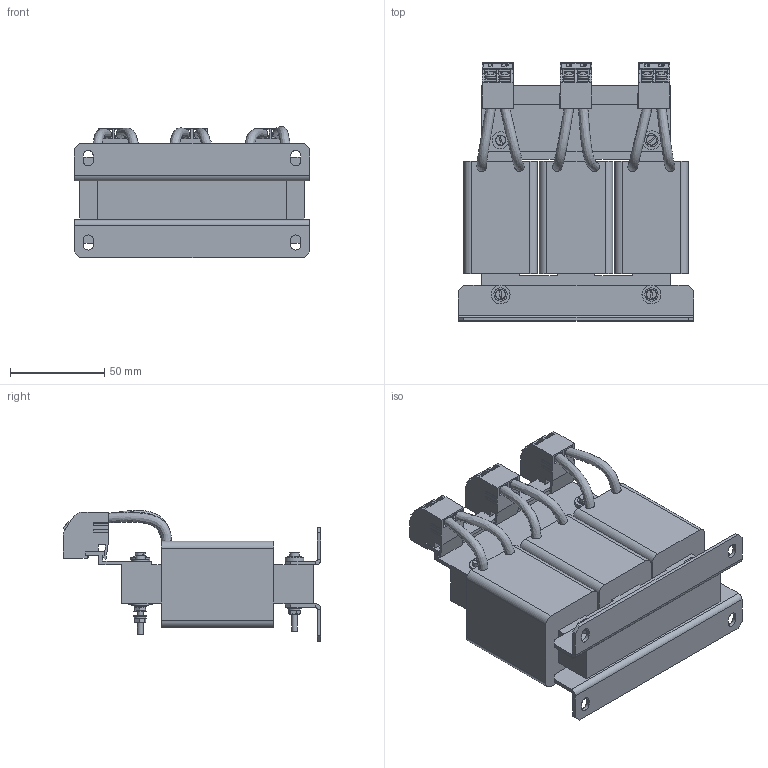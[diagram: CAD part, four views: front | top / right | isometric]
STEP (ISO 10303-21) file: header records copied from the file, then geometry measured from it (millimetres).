
FILE_DESCRIPTION(/* description */ ('raw material description'),/* implementation_level */ '2;1');
FILE_NAME(/* name */ 'P:\Construction\Filter_Marketing\RWK\RWK3044_RWK3062\RWK3044-9-88-E0XXX.stp',/* time_stamp */ '2018-08-27T09:48:40+02:00',/* author */ ('Erika.Jenzer'),/* organization */ ('Schaffner EMV AG'),/* preprocessor_version */ 'ST-DEVELOPER v16.5',/* originating_system */ 'Autodesk Inventor 2017',/* authorisation */ '');
FILE_SCHEMA (('AUTOMOTIVE_DESIGN { 1 0 10303 214 3 1 1 }'));
Products named in the file (1): RWK3044-9-88-E0XXX
Bounding box: 125 x 136.75 x 69.54 mm (x, y, z)
Volume: 449746 mm3; surface area: 93340.4 mm2
Topology: 1 solids, 9 shells, 1754 faces, 4852 edges, 3150 vertices
Faces by surface type: plane 1429, cylinder 188, bspline 62, cone 39, sphere 24, torus 12
Full cylindrical faces by diameter (mm): 3 x19, 3.1 x4, 3.2 x10, 3.4 x1, 4.2 x3, 4.5 x5, 5.7 x6, 6 x1, 7 x8, 9 x2, 10 x3, 13 x1
Entity records: 59802 total; most frequent: CARTESIAN_POINT 13636, ORIENTED_EDGE 9364, DIRECTION 8861, EDGE_CURVE 4682, LINE 3439, VECTOR 3439, VERTEX_POINT 3094, AXIS2_PLACEMENT_3D 2711
